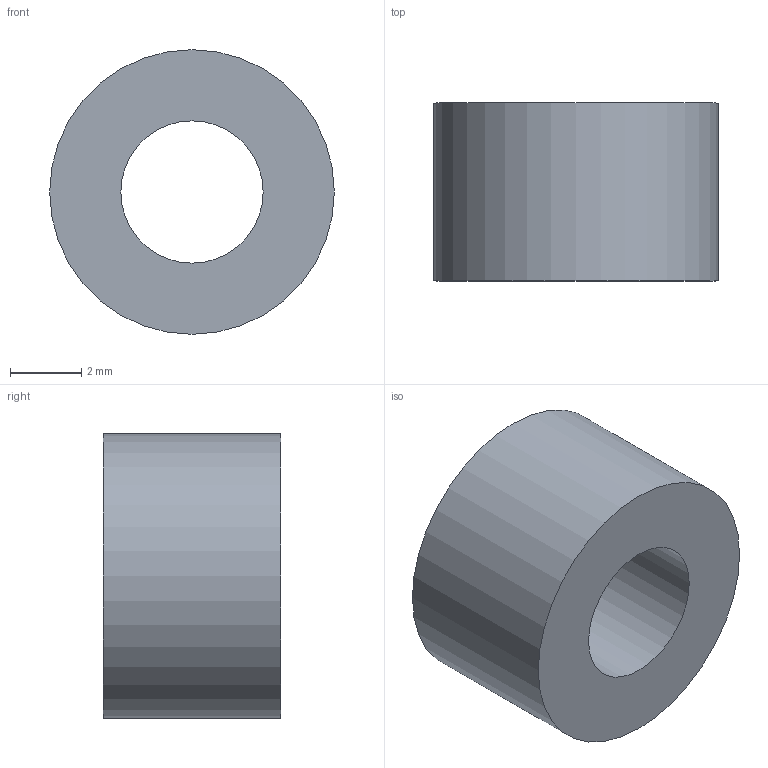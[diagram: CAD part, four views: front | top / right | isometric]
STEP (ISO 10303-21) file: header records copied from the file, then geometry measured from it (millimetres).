
FILE_DESCRIPTION (( 'STEP AP214' ), '1' );
FILE_NAME ('10FF.008.001.16R.STEP', '2026-03-23T19:50:36', ( '' ), ( '' ), 'SwSTEP 2.0', 'SolidWorks 2025', '' );
FILE_SCHEMA (( 'AUTOMOTIVE_DESIGN' ));
Length unit declared in the file: millimetre
Products named in the file (1): 10FF.008.001.16R
Bounding box: 8 x 5 x 8 mm (x, y, z)
Volume: 188.5 mm3; surface area: 263.9 mm2
Topology: 1 solids, 1 shells, 4 faces, 6 edges, 4 vertices
Faces by surface type: plane 2, cylinder 2
Full cylindrical faces by diameter (mm): 4 x1, 8 x1
Entity records: 111 total; most frequent: DIRECTION 18, CARTESIAN_POINT 13, AXIS2_PLACEMENT_3D 9, EDGE_LOOP 8, ORIENTED_EDGE 8, FACE_OUTER_BOUND 6, ADVANCED_FACE 4, EDGE_CURVE 4
